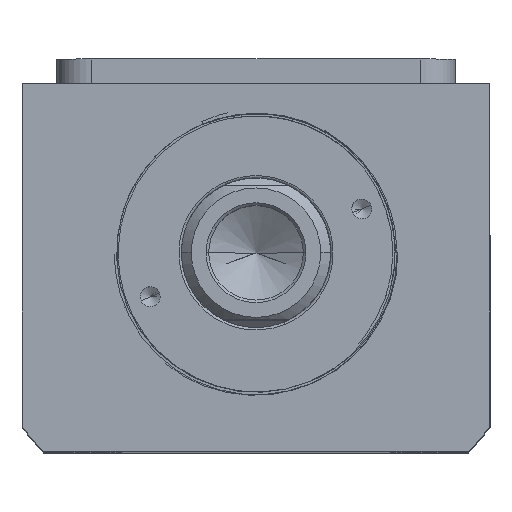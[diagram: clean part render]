
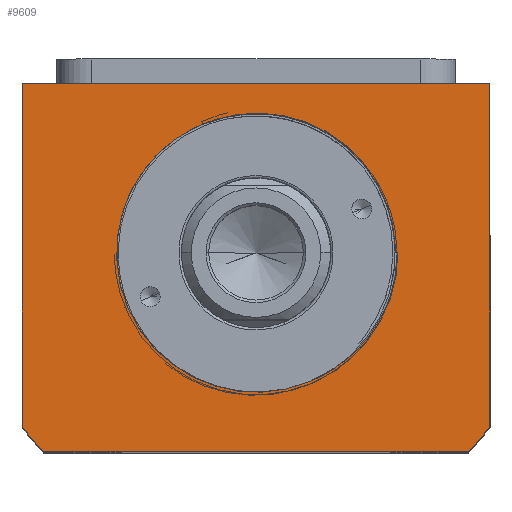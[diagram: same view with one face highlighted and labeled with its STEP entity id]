
A CAD part, top view. The second image highlights one B-rep face of the part: STEP entity #9609.
In plain terms, the highlighted planar face has unit normal (0, 0, 1).
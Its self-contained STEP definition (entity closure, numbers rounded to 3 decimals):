
#61 = CARTESIAN_POINT ( 'NONE',  ( 18.129, -21.529, 60. ) ) ;
#79 = VERTEX_POINT ( 'NONE', #3394 ) ;
#218 = VECTOR ( 'NONE', #10372, 1000. ) ;
#278 = VERTEX_POINT ( 'NONE', #1990 ) ;
#485 = VECTOR ( 'NONE', #10062, 1000. ) ;
#518 = ORIENTED_EDGE ( 'NONE', *, *, #8880, .T. ) ;
#532 = ORIENTED_EDGE ( 'NONE', *, *, #3673, .T. ) ;
#581 = VECTOR ( 'NONE', #2651, 1000. ) ;
#698 = CARTESIAN_POINT ( 'NONE',  ( 10.232, -26.064, 60. ) ) ;
#779 = VERTEX_POINT ( 'NONE', #2279 ) ;
#859 = VECTOR ( 'NONE', #1078, 1000. ) ;
#879 = CARTESIAN_POINT ( 'NONE',  ( 16.467, -22.819, 60. ) ) ;
#1078 = DIRECTION ( 'NONE',  ( -1., 0., 0. ) ) ;
#1303 = EDGE_CURVE ( 'NONE', #10640, #1765, #10452, .T. ) ;
#1313 = CARTESIAN_POINT ( 'NONE',  ( 0., 0., 60. ) ) ;
#1550 = CARTESIAN_POINT ( 'NONE',  ( -47., 34., 60. ) ) ;
#1765 = VERTEX_POINT ( 'NONE', #1550 ) ;
#1872 = CARTESIAN_POINT ( 'NONE',  ( 10.232, -26.064, 60. ) ) ;
#1910 = ORIENTED_EDGE ( 'NONE', *, *, #3515, .T. ) ;
#1915 = CARTESIAN_POINT ( 'NONE',  ( 10.89, -25.816, 60. ) ) ;
#1980 = CARTESIAN_POINT ( 'NONE',  ( 0., 0., 60. ) ) ;
#1990 = CARTESIAN_POINT ( 'NONE',  ( -42.688, -40., 60. ) ) ;
#2127 = FACE_OUTER_BOUND ( 'NONE', #11277, .T. ) ;
#2279 = CARTESIAN_POINT ( 'NONE',  ( 28., 0., 60. ) ) ;
#2350 = CARTESIAN_POINT ( 'NONE',  ( 47., 34., 60. ) ) ;
#2511 = LINE ( 'NONE', #2687, #581 ) ;
#2651 = DIRECTION ( 'NONE',  ( 0., 1., 0. ) ) ;
#2687 = CARTESIAN_POINT ( 'NONE',  ( 47., 34., 60. ) ) ;
#2697 = CARTESIAN_POINT ( 'NONE',  ( 24.898, -13.504, 60. ) ) ;
#2780 = CARTESIAN_POINT ( 'NONE',  ( 28.485, -0.71, 60. ) ) ;
#2793 = VERTEX_POINT ( 'NONE', #8146 ) ;
#3223 = LINE ( 'NONE', #6430, #859 ) ;
#3350 = PLANE ( 'NONE',  #11441 ) ;
#3394 = CARTESIAN_POINT ( 'NONE',  ( 28.495, 0., 60. ) ) ;
#3515 = EDGE_CURVE ( 'NONE', #6832, #779, #11320, .T. ) ;
#3595 = CARTESIAN_POINT ( 'NONE',  ( 12.831, -24.945, 60. ) ) ;
#3636 = CARTESIAN_POINT ( 'NONE',  ( 18.667, -21.077, 60. ) ) ;
#3673 = EDGE_CURVE ( 'NONE', #4602, #5138, #7797, .T. ) ;
#3706 = CARTESIAN_POINT ( 'NONE',  ( 28.323, -2.832, 60. ) ) ;
#3809 = CARTESIAN_POINT ( 'NONE',  ( 42.688, -40., 60. ) ) ;
#4003 = CARTESIAN_POINT ( 'NONE',  ( 42.688, -40., 60. ) ) ;
#4576 = ORIENTED_EDGE ( 'NONE', *, *, #8068, .T. ) ;
#4602 = VERTEX_POINT ( 'NONE', #4003 ) ;
#4828 = DIRECTION ( 'NONE',  ( 1., 0., 0. ) ) ;
#4873 = DIRECTION ( 'NONE',  ( 0., 0., 1. ) ) ;
#5138 = VERTEX_POINT ( 'NONE', #7452 ) ;
#5378 = CARTESIAN_POINT ( 'NONE',  ( 26.694, -9.657, 60. ) ) ;
#5640 = EDGE_CURVE ( 'NONE', #79, #779, #3223, .T. ) ;
#5698 = ORIENTED_EDGE ( 'NONE', *, *, #5640, .F. ) ;
#6058 = CIRCLE ( 'NONE', #9039, 58.5 ) ;
#6061 = DIRECTION ( 'NONE',  ( 0., 0., 1. ) ) ;
#6101 = CARTESIAN_POINT ( 'NONE',  ( 0., 0., 60. ) ) ;
#6313 = CARTESIAN_POINT ( 'NONE',  ( 26.163, -10.961, 60. ) ) ;
#6350 = CARTESIAN_POINT ( 'NONE',  ( 24.178, -14.712, 60. ) ) ;
#6430 = CARTESIAN_POINT ( 'NONE',  ( 0., 0., 60. ) ) ;
#6588 = EDGE_CURVE ( 'NONE', #5138, #10640, #2511, .T. ) ;
#6812 = ORIENTED_EDGE ( 'NONE', *, *, #6588, .T. ) ;
#6832 = VERTEX_POINT ( 'NONE', #698 ) ;
#6962 = DIRECTION ( 'NONE',  ( 1., 0., 0. ) ) ;
#7082 = VECTOR ( 'NONE', #11364, 1000. ) ;
#7136 = CARTESIAN_POINT ( 'NONE',  ( 15.3, -23.593, 60. ) ) ;
#7207 = CARTESIAN_POINT ( 'NONE',  ( 22.571, -17.007, 60. ) ) ;
#7252 = CARTESIAN_POINT ( 'NONE',  ( 27.887, -5.628, 60. ) ) ;
#7294 = CARTESIAN_POINT ( 'NONE',  ( 13.459, -24.624, 60. ) ) ;
#7452 = CARTESIAN_POINT ( 'NONE',  ( 47., -34.832, 60. ) ) ;
#7460 = ORIENTED_EDGE ( 'NONE', *, *, #11448, .T. ) ;
#7797 = CIRCLE ( 'NONE', #9994, 58.5 ) ;
#7922 = EDGE_LOOP ( 'NONE', ( #5698, #7460, #1910 ) ) ;
#8047 = CARTESIAN_POINT ( 'NONE',  ( 20.224, -19.631, 60. ) ) ;
#8068 = EDGE_CURVE ( 'NONE', #1765, #2793, #8748, .T. ) ;
#8146 = CARTESIAN_POINT ( 'NONE',  ( -47., -34.832, 60. ) ) ;
#8195 = CARTESIAN_POINT ( 'NONE',  ( 21.684, -18.094, 60. ) ) ;
#8395 = ORIENTED_EDGE ( 'NONE', *, *, #9869, .T. ) ;
#8602 = B_SPLINE_CURVE_WITH_KNOTS ( 'NONE', 3,
 ( #9035, #2780, #10883, #3706, #10001, #7252, #10844, #5378, #6313, #2697, #6350, #7207, #8195, #8047, #8997, #3636, #61, #879, #7136, #7294, #3595, #10763, #1915, #1872 ),
 .UNSPECIFIED., .F., .F.,
 ( 4, 2, 2, 2, 2, 2, 2, 2, 2, 2, 2, 4 ),
 ( 0., 0.002, 0.004, 0.009, 0.013, 0.017, 0.021, 0.023, 0.026, 0.03, 0.032, 0.034 ),
 .UNSPECIFIED. ) ;
#8748 = LINE ( 'NONE', #11313, #218 ) ;
#8880 = EDGE_CURVE ( 'NONE', #278, #4602, #11005, .T. ) ;
#8968 = CARTESIAN_POINT ( 'NONE',  ( 0., 0., 60. ) ) ;
#8997 = CARTESIAN_POINT ( 'NONE',  ( 19.714, -20.129, 60. ) ) ;
#9035 = CARTESIAN_POINT ( 'NONE',  ( 28.495, 0., 60. ) ) ;
#9039 = AXIS2_PLACEMENT_3D ( 'NONE', #1980, #10100, #10061 ) ;
#9609 = ADVANCED_FACE ( 'NONE', ( #10142, #2127 ), #3350, .T. ) ;
#9869 = EDGE_CURVE ( 'NONE', #2793, #278, #6058, .T. ) ;
#9994 = AXIS2_PLACEMENT_3D ( 'NONE', #1313, #4873, #4828 ) ;
#10001 = CARTESIAN_POINT ( 'NONE',  ( 28.233, -3.538, 60. ) ) ;
#10061 = DIRECTION ( 'NONE',  ( 1., 0., 0. ) ) ;
#10062 = DIRECTION ( 'NONE',  ( 1., 0., 0. ) ) ;
#10100 = DIRECTION ( 'NONE',  ( 0., 0., 1. ) ) ;
#10142 = FACE_BOUND ( 'NONE', #7922, .T. ) ;
#10372 = DIRECTION ( 'NONE',  ( 0., -1., 0. ) ) ;
#10452 = LINE ( 'NONE', #11174, #7082 ) ;
#10640 = VERTEX_POINT ( 'NONE', #2350 ) ;
#10662 = ORIENTED_EDGE ( 'NONE', *, *, #1303, .T. ) ;
#10737 = DIRECTION ( 'NONE',  ( 1., 0., 0. ) ) ;
#10763 = CARTESIAN_POINT ( 'NONE',  ( 11.542, -25.544, 60. ) ) ;
#10825 = DIRECTION ( 'NONE',  ( 0., 0., -1. ) ) ;
#10844 = CARTESIAN_POINT ( 'NONE',  ( 27.555, -6.99, 60. ) ) ;
#10883 = CARTESIAN_POINT ( 'NONE',  ( 28.449, -1.419, 60. ) ) ;
#11005 = LINE ( 'NONE', #3809, #485 ) ;
#11174 = CARTESIAN_POINT ( 'NONE',  ( -47., 34., 60. ) ) ;
#11277 = EDGE_LOOP ( 'NONE', ( #10662, #4576, #8395, #518, #532, #6812 ) ) ;
#11313 = CARTESIAN_POINT ( 'NONE',  ( -47., -34.832, 60. ) ) ;
#11320 = CIRCLE ( 'NONE', #11583, 28. ) ;
#11364 = DIRECTION ( 'NONE',  ( -1., 0., 0. ) ) ;
#11441 = AXIS2_PLACEMENT_3D ( 'NONE', #6101, #6061, #6962 ) ;
#11448 = EDGE_CURVE ( 'NONE', #79, #6832, #8602, .T. ) ;
#11583 = AXIS2_PLACEMENT_3D ( 'NONE', #8968, #10825, #10737 ) ;
